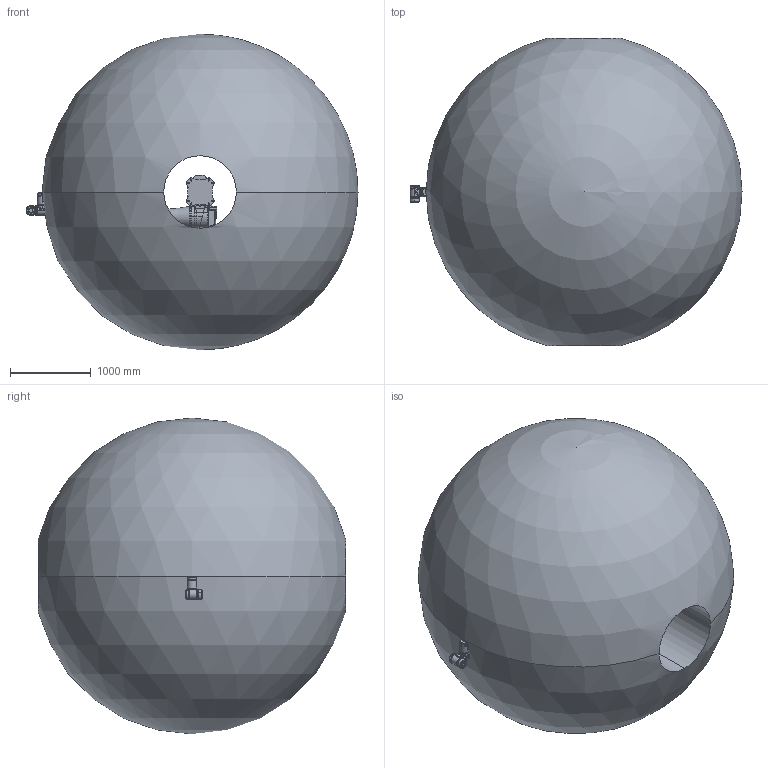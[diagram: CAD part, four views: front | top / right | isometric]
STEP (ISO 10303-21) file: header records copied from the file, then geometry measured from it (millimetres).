
FILE_DESCRIPTION (( 'STEP AP214' ), '1' );
FILE_NAME ('iS35-漪 P 萸腔俋楷耀倰.STEP', '2026-08-20T05:30:48', ( '' ), ( '' ), 'SwSTEP 2.0', 'SolidWorks 2024', '' );
FILE_SCHEMA (( 'AUTOMOTIVE_DESIGN' ));
Length unit declared in the file: millimetre
Products named in the file (12): iS35-小臂简化（高性能）; iS35-link4外发模型; iS35-link3外发模型; iS35-link6外发模型; M40P-关节简化; iS35-link1外发模型; iS35-含 P 点的外发模型; iS35-link2外发模型; iS35-link0外发模型; iS35-运动范围球体; iS35-link5外发模型; iS35-大臂简化(换M40P)
Assembly tree (12 placements, depth 3):
  iS35-含 P 点的外发模型
    iS35-link0外发模型
    iS35-link1外发模型
    iS35-link2外发模型
      iS35-大臂简化(换M40P)
      M40P-关节简化
    iS35-link3外发模型
      iS35-小臂简化（高性能）
      iS35-link4外发模型
    iS35-link4外发模型
    iS35-link5外发模型
    iS35-link6外发模型
    iS35-运动范围球体
Bounding box: 4119.5 x 3814.26 x 3919 mm (x, y, z)
Volume: 29136034565 mm3; surface area: 61663071.5 mm2
Topology: 11 solids, 33 shells, 2699 faces, 6852 edges, 4328 vertices
Faces by surface type: cylinder 837, plane 769, bspline 698, cone 270, torus 115, sphere 10
Entity records: 142283 total; most frequent: CARTESIAN_POINT 65229, ORIENTED_EDGE 11772, DIRECTION 9684, EDGE_CURVE 5886, AXIS2_PLACEMENT_3D 3859, VERTEX_POINT 3732, EDGE_LOOP 2576, ADVANCED_FACE 2353
